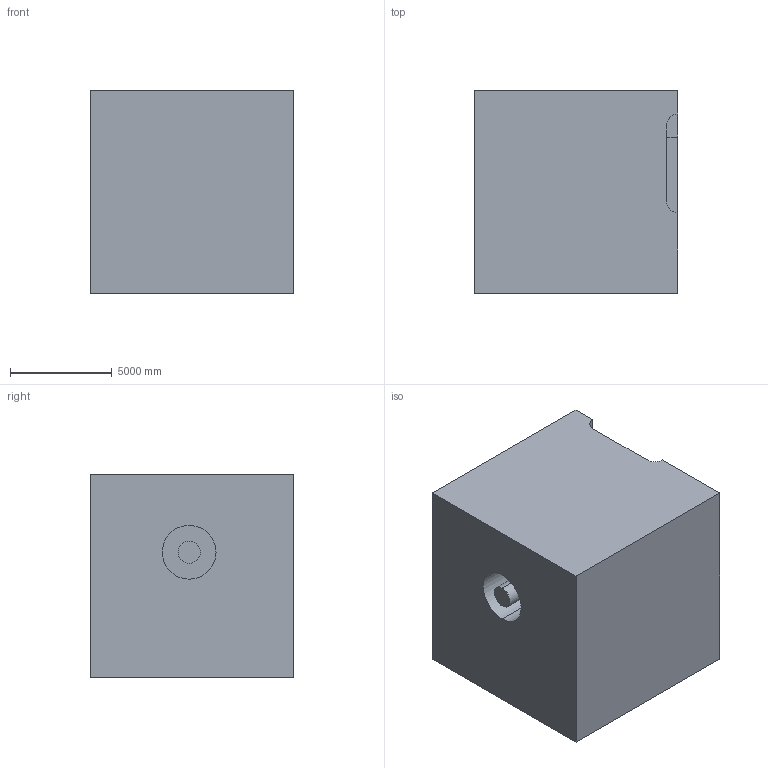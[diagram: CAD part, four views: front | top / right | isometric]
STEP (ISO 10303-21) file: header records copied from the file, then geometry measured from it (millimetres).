
FILE_DESCRIPTION (( 'STEP AP203' ), '1' );
FILE_NAME ('1249.STEP', '2022-08-18T13:23:14', ( 'user' ), ( '' ), 'SwSTEP 2.0', 'SolidWorks 2021', '' );
FILE_SCHEMA (( 'CONFIG_CONTROL_DESIGN' ));
Length unit declared in the file: centimetre
Products named in the file (1): 1249
Bounding box: 10000 x 10000 x 10000 mm (x, y, z)
Volume: 958384523618.8 mm3; surface area: 633242964.9 mm2
Topology: 1 solids, 1 shells, 21 faces, 51 edges, 34 vertices
Faces by surface type: plane 14, cylinder 7
Entity records: 696 total; most frequent: DIRECTION 109, CARTESIAN_POINT 107, ORIENTED_EDGE 102, EDGE_CURVE 51, LINE 37, VECTOR 37, AXIS2_PLACEMENT_3D 36, VERTEX_POINT 34
